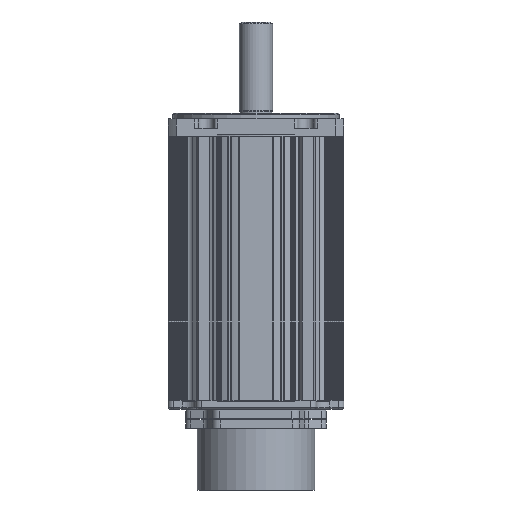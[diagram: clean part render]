
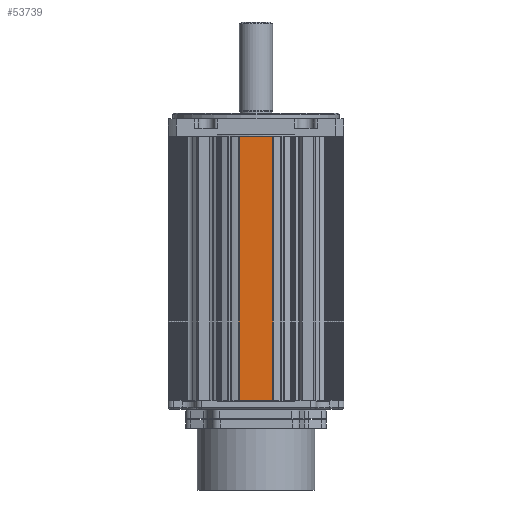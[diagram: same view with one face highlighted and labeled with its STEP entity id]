
A CAD part, front view. The second image highlights one B-rep face of the part: STEP entity #53739.
In plain terms, the highlighted planar face has unit normal (0, -1, 0).
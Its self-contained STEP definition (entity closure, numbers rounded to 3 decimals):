
#310 = EDGE_CURVE ( 'NONE', #56062, #49510, #19045, .T. ) ;
#1556 = VECTOR ( 'NONE', #10292, 1000. ) ;
#1978 = CARTESIAN_POINT ( 'NONE',  ( 9.5, -49.8, 75. ) ) ;
#2857 = ORIENTED_EDGE ( 'NONE', *, *, #47442, .T. ) ;
#6726 = ORIENTED_EDGE ( 'NONE', *, *, #310, .F. ) ;
#7900 = VECTOR ( 'NONE', #35652, 1000. ) ;
#8133 = CARTESIAN_POINT ( 'NONE',  ( -9.5, -49.8, -75. ) ) ;
#10292 = DIRECTION ( 'NONE',  ( 0., 0., -1. ) ) ;
#10576 = DIRECTION ( 'NONE',  ( -1., 0., 0. ) ) ;
#11005 = LINE ( 'NONE', #55140, #7900 ) ;
#14942 = LINE ( 'NONE', #50612, #18942 ) ;
#15902 = FACE_OUTER_BOUND ( 'NONE', #47886, .T. ) ;
#18100 = AXIS2_PLACEMENT_3D ( 'NONE', #46616, #24675, #38415 ) ;
#18942 = VECTOR ( 'NONE', #10576, 1000. ) ;
#19045 = LINE ( 'NONE', #22874, #1556 ) ;
#21279 = CARTESIAN_POINT ( 'NONE',  ( -9.5, -49.8, 75. ) ) ;
#21485 = EDGE_CURVE ( 'NONE', #47223, #42043, #56953, .T. ) ;
#22874 = CARTESIAN_POINT ( 'NONE',  ( 9.5, -49.8, 75. ) ) ;
#24675 = DIRECTION ( 'NONE',  ( 0., -1., 0. ) ) ;
#25060 = ORIENTED_EDGE ( 'NONE', *, *, #21485, .T. ) ;
#28330 = VECTOR ( 'NONE', #47055, 1000. ) ;
#34022 = EDGE_CURVE ( 'NONE', #49510, #42043, #11005, .T. ) ;
#35652 = DIRECTION ( 'NONE',  ( -1., 0., 0. ) ) ;
#38415 = DIRECTION ( 'NONE',  ( 0., 0., -1. ) ) ;
#42043 = VERTEX_POINT ( 'NONE', #8133 ) ;
#43364 = CARTESIAN_POINT ( 'NONE',  ( -9.5, -49.8, 75. ) ) ;
#45472 = CARTESIAN_POINT ( 'NONE',  ( 9.5, -49.8, -75. ) ) ;
#46616 = CARTESIAN_POINT ( 'NONE',  ( 0., -49.8, 75. ) ) ;
#46912 = PLANE ( 'NONE',  #18100 ) ;
#47055 = DIRECTION ( 'NONE',  ( 0., 0., -1. ) ) ;
#47223 = VERTEX_POINT ( 'NONE', #43364 ) ;
#47442 = EDGE_CURVE ( 'NONE', #56062, #47223, #14942, .T. ) ;
#47886 = EDGE_LOOP ( 'NONE', ( #52408, #6726, #2857, #25060 ) ) ;
#49510 = VERTEX_POINT ( 'NONE', #45472 ) ;
#50612 = CARTESIAN_POINT ( 'NONE',  ( 0., -49.8, 75. ) ) ;
#52408 = ORIENTED_EDGE ( 'NONE', *, *, #34022, .F. ) ;
#53739 = ADVANCED_FACE ( 'NONE', ( #15902 ), #46912, .T. ) ;
#55140 = CARTESIAN_POINT ( 'NONE',  ( 0., -49.8, -75. ) ) ;
#56062 = VERTEX_POINT ( 'NONE', #1978 ) ;
#56953 = LINE ( 'NONE', #21279, #28330 ) ;
